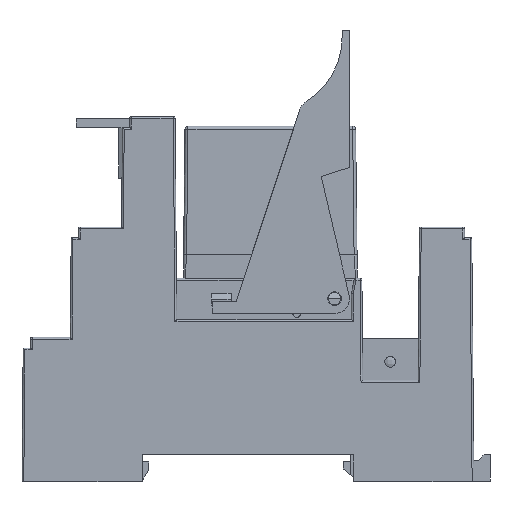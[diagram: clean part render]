
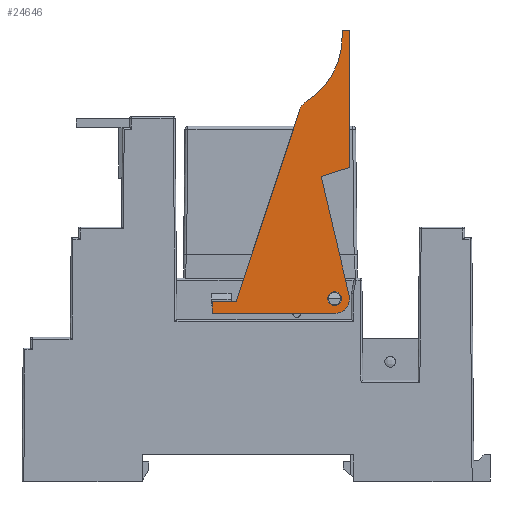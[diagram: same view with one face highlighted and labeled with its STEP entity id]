
A CAD part, left-side view. The second image highlights one B-rep face of the part: STEP entity #24646.
In plain terms, the highlighted planar face has unit normal (-1, 0, 0).
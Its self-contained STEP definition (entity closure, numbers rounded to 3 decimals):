
#110 = LINE ( 'NONE', #27515, #25804 ) ;
#364 = DIRECTION ( 'NONE',  ( 0., -1., 0. ) ) ;
#496 = DIRECTION ( 'NONE',  ( 0., 0., -1. ) ) ;
#1542 = VERTEX_POINT ( 'NONE', #21731 ) ;
#1638 = EDGE_CURVE ( 'NONE', #25916, #11733, #19910, .T. ) ;
#1733 = DIRECTION ( 'NONE',  ( 0., -1., 0. ) ) ;
#1766 = CARTESIAN_POINT ( 'NONE',  ( 0.15, 26.07, 30.7 ) ) ;
#2025 = ORIENTED_EDGE ( 'NONE', *, *, #26451, .F. ) ;
#2152 = VECTOR ( 'NONE', #18034, 1000. ) ;
#2201 = DIRECTION ( 'NONE',  ( 1., 0., 0. ) ) ;
#2203 = DIRECTION ( 'NONE',  ( 1., 0., 0. ) ) ;
#3078 = CARTESIAN_POINT ( 'NONE',  ( 0.15, 23.57, 75.7 ) ) ;
#3117 = EDGE_CURVE ( 'NONE', #29737, #9980, #9725, .T. ) ;
#3190 = VERTEX_POINT ( 'NONE', #14558 ) ;
#3349 = CARTESIAN_POINT ( 'NONE',  ( 0.15, 23.57, 75.7 ) ) ;
#3849 = ORIENTED_EDGE ( 'NONE', *, *, #1638, .F. ) ;
#4720 = LINE ( 'NONE', #13929, #18635 ) ;
#5207 = EDGE_CURVE ( 'NONE', #25848, #25916, #4720, .T. ) ;
#5771 = ORIENTED_EDGE ( 'NONE', *, *, #13136, .F. ) ;
#6006 = CIRCLE ( 'NONE', #24292, 1.15 ) ;
#6175 = CARTESIAN_POINT ( 'NONE',  ( 0.15, 46.57, 28.2 ) ) ;
#6270 = VERTEX_POINT ( 'NONE', #24680 ) ;
#6496 = DIRECTION ( 'NONE',  ( 0., -1., 0. ) ) ;
#6508 = VECTOR ( 'NONE', #6496, 1000. ) ;
#6532 = DIRECTION ( 'NONE',  ( 0., 0.954, -0.301 ) ) ;
#6773 = DIRECTION ( 'NONE',  ( 0., 1., 0. ) ) ;
#6879 = ORIENTED_EDGE ( 'NONE', *, *, #10492, .F. ) ;
#6997 = CARTESIAN_POINT ( 'NONE',  ( 0.15, 30.804, 63.783 ) ) ;
#7530 = VERTEX_POINT ( 'NONE', #26438 ) ;
#7642 = AXIS2_PLACEMENT_3D ( 'NONE', #24701, #13561, #6773 ) ;
#7752 = VERTEX_POINT ( 'NONE', #21696 ) ;
#7962 = CARTESIAN_POINT ( 'NONE',  ( 0.15, 24.82, 75.7 ) ) ;
#8180 = EDGE_CURVE ( 'NONE', #9980, #25602, #28572, .T. ) ;
#9175 = ORIENTED_EDGE ( 'NONE', *, *, #25497, .F. ) ;
#9285 = CARTESIAN_POINT ( 'NONE',  ( 0.15, 24.82, 74.45 ) ) ;
#9391 = LINE ( 'NONE', #20666, #18660 ) ;
#9725 = LINE ( 'NONE', #9285, #19232 ) ;
#9980 = VERTEX_POINT ( 'NONE', #19664 ) ;
#10018 = EDGE_CURVE ( 'NONE', #6270, #7752, #6006, .T. ) ;
#10028 = ORIENTED_EDGE ( 'NONE', *, *, #18250, .F. ) ;
#10492 = EDGE_CURVE ( 'NONE', #1542, #10627, #29566, .T. ) ;
#10627 = VERTEX_POINT ( 'NONE', #12875 ) ;
#10630 = CARTESIAN_POINT ( 'NONE',  ( 0.15, 26.07, 30.7 ) ) ;
#11283 = EDGE_LOOP ( 'NONE', ( #25008, #27311 ) ) ;
#11733 = VERTEX_POINT ( 'NONE', #6997 ) ;
#11774 = CARTESIAN_POINT ( 'NONE',  ( 0.15, 42.57, 30.2 ) ) ;
#11984 = ORIENTED_EDGE ( 'NONE', *, *, #8180, .F. ) ;
#12108 = EDGE_CURVE ( 'NONE', #26645, #22284, #13675, .T. ) ;
#12875 = CARTESIAN_POINT ( 'NONE',  ( 0.15, 26.07, 28.2 ) ) ;
#13136 = EDGE_CURVE ( 'NONE', #10627, #7530, #110, .T. ) ;
#13433 = EDGE_CURVE ( 'NONE', #22284, #1542, #17554, .T. ) ;
#13444 = CARTESIAN_POINT ( 'NONE',  ( 0.15, 29.501, 61.649 ) ) ;
#13455 = CIRCLE ( 'NONE', #22583, 12.5 ) ;
#13561 = DIRECTION ( 'NONE',  ( 1., 0., 0. ) ) ;
#13647 = PLANE ( 'NONE',  #20004 ) ;
#13675 = LINE ( 'NONE', #24982, #2152 ) ;
#13731 = AXIS2_PLACEMENT_3D ( 'NONE', #25382, #22973, #364 ) ;
#13929 = CARTESIAN_POINT ( 'NONE',  ( 0.15, 42.57, 30.2 ) ) ;
#14558 = CARTESIAN_POINT ( 'NONE',  ( 0.15, 23.57, 52.7 ) ) ;
#14828 = LINE ( 'NONE', #3078, #27878 ) ;
#15363 = DIRECTION ( 'NONE',  ( 0., 0., 1. ) ) ;
#15503 = EDGE_LOOP ( 'NONE', ( #10028, #5771, #6879, #16278, #23668, #9175, #2025, #11984, #27135, #16927, #3849, #24734, #19083 ) ) ;
#15773 = FACE_OUTER_BOUND ( 'NONE', #15503, .T. ) ;
#16013 = EDGE_CURVE ( 'NONE', #7752, #6270, #23056, .T. ) ;
#16235 = DIRECTION ( 'NONE',  ( 0., 1., 0. ) ) ;
#16278 = ORIENTED_EDGE ( 'NONE', *, *, #13433, .F. ) ;
#16927 = ORIENTED_EDGE ( 'NONE', *, *, #20992, .F. ) ;
#17554 = CIRCLE ( 'NONE', #21385, 2.5 ) ;
#17571 = CARTESIAN_POINT ( 'NONE',  ( 0.15, 46.57, 30.2 ) ) ;
#17952 = DIRECTION ( 'NONE',  ( -1., 0., 0. ) ) ;
#18034 = DIRECTION ( 'NONE',  ( 0., -0.229, -0.973 ) ) ;
#18250 = EDGE_CURVE ( 'NONE', #7530, #23274, #26817, .T. ) ;
#18312 = DIRECTION ( 'NONE',  ( 0., 0., 1. ) ) ;
#18635 = VECTOR ( 'NONE', #23115, 1000. ) ;
#18660 = VECTOR ( 'NONE', #6532, 1000. ) ;
#19083 = ORIENTED_EDGE ( 'NONE', *, *, #20298, .F. ) ;
#19232 = VECTOR ( 'NONE', #18312, 1000. ) ;
#19555 = CARTESIAN_POINT ( 'NONE',  ( 0.15, 24.82, 74.45 ) ) ;
#19664 = CARTESIAN_POINT ( 'NONE',  ( 0.15, 24.82, 75.7 ) ) ;
#19702 = CARTESIAN_POINT ( 'NONE',  ( 0.15, 23.636, 31.272 ) ) ;
#19790 = DIRECTION ( 'NONE',  ( 1., 0., 0. ) ) ;
#19910 = CIRCLE ( 'NONE', #24257, 2.5 ) ;
#20004 = AXIS2_PLACEMENT_3D ( 'NONE', #22835, #2203, #27484 ) ;
#20298 = EDGE_CURVE ( 'NONE', #23274, #25848, #27281, .T. ) ;
#20346 = DIRECTION ( 'NONE',  ( 0., -1., 0. ) ) ;
#20666 = CARTESIAN_POINT ( 'NONE',  ( 0.15, 23.57, 52.7 ) ) ;
#20992 = EDGE_CURVE ( 'NONE', #11733, #29737, #13455, .T. ) ;
#21385 = AXIS2_PLACEMENT_3D ( 'NONE', #10630, #19790, #1733 ) ;
#21696 = CARTESIAN_POINT ( 'NONE',  ( 0.15, 27.22, 30.7 ) ) ;
#21731 = CARTESIAN_POINT ( 'NONE',  ( 0.15, 23.57, 30.7 ) ) ;
#22284 = VERTEX_POINT ( 'NONE', #19702 ) ;
#22524 = FACE_BOUND ( 'NONE', #11283, .T. ) ;
#22583 = AXIS2_PLACEMENT_3D ( 'NONE', #25200, #17952, #20346 ) ;
#22627 = DIRECTION ( 'NONE',  ( 1., 0., 0. ) ) ;
#22835 = CARTESIAN_POINT ( 'NONE',  ( 0.15, 29.501, 61.649 ) ) ;
#22973 = DIRECTION ( 'NONE',  ( 1., 0., 0. ) ) ;
#23056 = CIRCLE ( 'NONE', #7642, 1.15 ) ;
#23115 = DIRECTION ( 'NONE',  ( 0., -0.315, 0.949 ) ) ;
#23219 = CARTESIAN_POINT ( 'NONE',  ( 0.15, 31.873, 62.437 ) ) ;
#23225 = CARTESIAN_POINT ( 'NONE',  ( 0.15, 28.32, 51.2 ) ) ;
#23274 = VERTEX_POINT ( 'NONE', #17571 ) ;
#23668 = ORIENTED_EDGE ( 'NONE', *, *, #12108, .F. ) ;
#24257 = AXIS2_PLACEMENT_3D ( 'NONE', #13444, #22627, #24903 ) ;
#24292 = AXIS2_PLACEMENT_3D ( 'NONE', #1766, #2201, #26907 ) ;
#24646 = ADVANCED_FACE ( 'NONE', ( #15773, #22524 ), #13647, .F. ) ;
#24680 = CARTESIAN_POINT ( 'NONE',  ( 0.15, 24.92, 30.7 ) ) ;
#24701 = CARTESIAN_POINT ( 'NONE',  ( 0.15, 26.07, 30.7 ) ) ;
#24734 = ORIENTED_EDGE ( 'NONE', *, *, #5207, .F. ) ;
#24903 = DIRECTION ( 'NONE',  ( 0., 1., 0. ) ) ;
#24982 = CARTESIAN_POINT ( 'NONE',  ( 0.15, 23.636, 31.272 ) ) ;
#25008 = ORIENTED_EDGE ( 'NONE', *, *, #10018, .T. ) ;
#25200 = CARTESIAN_POINT ( 'NONE',  ( 0.15, 37.32, 74.45 ) ) ;
#25382 = CARTESIAN_POINT ( 'NONE',  ( 0.15, 26.07, 30.7 ) ) ;
#25497 = EDGE_CURVE ( 'NONE', #3190, #26645, #9391, .T. ) ;
#25602 = VERTEX_POINT ( 'NONE', #3349 ) ;
#25804 = VECTOR ( 'NONE', #16235, 1000. ) ;
#25848 = VERTEX_POINT ( 'NONE', #11774 ) ;
#25916 = VERTEX_POINT ( 'NONE', #23219 ) ;
#26438 = CARTESIAN_POINT ( 'NONE',  ( 0.15, 46.57, 28.2 ) ) ;
#26451 = EDGE_CURVE ( 'NONE', #25602, #3190, #14828, .T. ) ;
#26645 = VERTEX_POINT ( 'NONE', #23225 ) ;
#26817 = LINE ( 'NONE', #6175, #27077 ) ;
#26907 = DIRECTION ( 'NONE',  ( 0., 1., 0. ) ) ;
#26946 = VECTOR ( 'NONE', #29015, 1000. ) ;
#27077 = VECTOR ( 'NONE', #15363, 1000. ) ;
#27127 = CARTESIAN_POINT ( 'NONE',  ( 0.15, 46.57, 30.2 ) ) ;
#27135 = ORIENTED_EDGE ( 'NONE', *, *, #3117, .F. ) ;
#27281 = LINE ( 'NONE', #27127, #6508 ) ;
#27311 = ORIENTED_EDGE ( 'NONE', *, *, #16013, .T. ) ;
#27484 = DIRECTION ( 'NONE',  ( 0., 1., 0. ) ) ;
#27515 = CARTESIAN_POINT ( 'NONE',  ( 0.15, 46.57, 28.2 ) ) ;
#27878 = VECTOR ( 'NONE', #496, 1000. ) ;
#28572 = LINE ( 'NONE', #7962, #26946 ) ;
#29015 = DIRECTION ( 'NONE',  ( 0., -1., 0. ) ) ;
#29566 = CIRCLE ( 'NONE', #13731, 2.5 ) ;
#29737 = VERTEX_POINT ( 'NONE', #19555 ) ;
